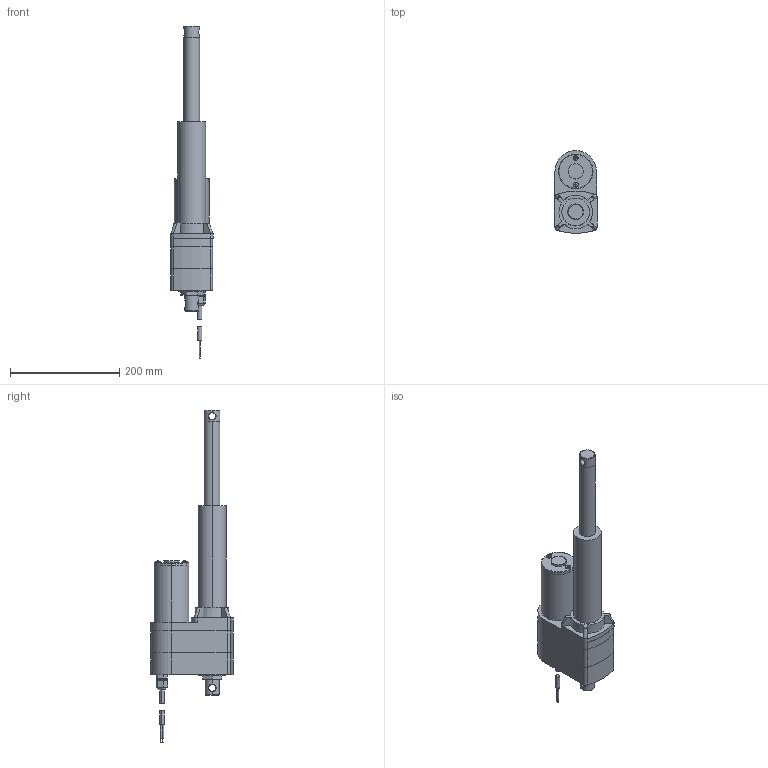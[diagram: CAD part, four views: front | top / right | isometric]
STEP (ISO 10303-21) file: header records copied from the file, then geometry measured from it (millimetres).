
FILE_DESCRIPTION (( 'STEP AP203' ), '1' );
FILE_NAME ('LA5_ACME_6x.step', '2021-02-24T15:20:34', ( '' ), ( '' ), 'SwSTEP 2.0', 'SolidWorks 2017', '' );
FILE_SCHEMA (( 'CONFIG_CONTROL_DESIGN' ));
Length unit declared in the file: millimetre
Products named in the file (1): LA5_ACME_6x
Bounding box: 77.22 x 151.29 x 607.52 mm (x, y, z)
Volume: 2007272 mm3; surface area: 205030.4 mm2
Topology: 14 solids, 14 shells, 315 faces, 680 edges, 422 vertices
Faces by surface type: plane 154, cylinder 101, cone 24, bspline 22, torus 10, sphere 4
Entity records: 10570 total; most frequent: CARTESIAN_POINT 3606, DIRECTION 1477, ORIENTED_EDGE 1360, EDGE_CURVE 680, AXIS2_PLACEMENT_3D 573, VERTEX_POINT 422, EDGE_LOOP 352, LINE 331
